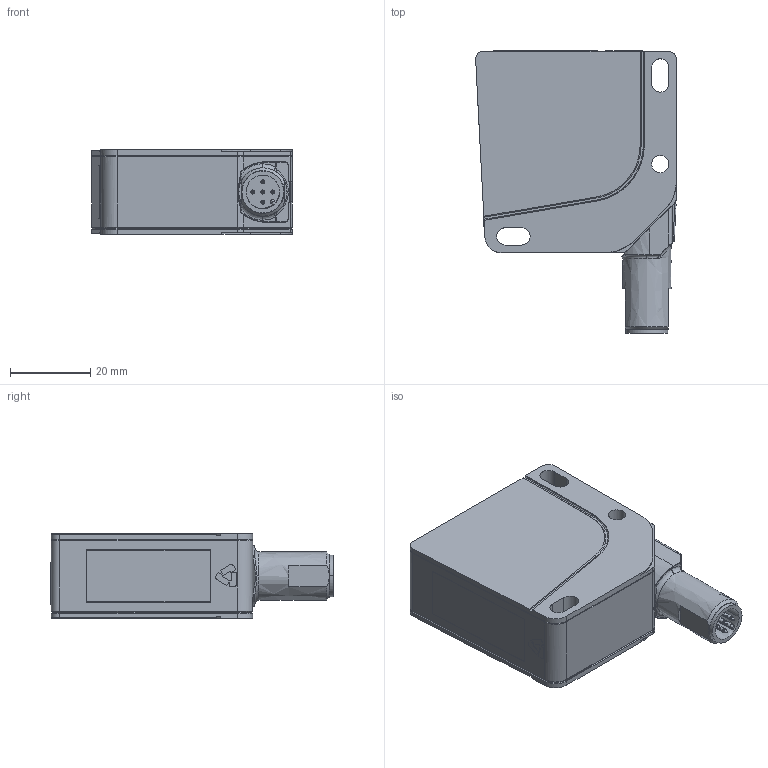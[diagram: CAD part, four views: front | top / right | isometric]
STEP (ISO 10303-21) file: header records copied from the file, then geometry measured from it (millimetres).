
FILE_DESCRIPTION((''),'2;1');
FILE_NAME('E:\temp\ODSL9_Stecker_unten.stp','2009-10-08T08:49:21',( 'User'),('SDRC'),'I-DEAS Master Series 9','UNIX','Yes');
FILE_SCHEMA(('CONFIG_CONTROL_DESIGN', 'GEOMETRIC_VALIDATION_PROPERTIES_MIM','SHAPE_APPEARANCE_LAYER_MIM'));
Length unit declared in the file: millimetre
Bounding box: 49.89 x 70.3 x 21 mm (x, y, z)
Volume: 49664.3 mm3; surface area: 11444.7 mm2
Topology: 1 solids, 1 shells, 412 faces, 1034 edges, 663 vertices
Faces by surface type: bspline 412
Entity records: 13803 total; most frequent: CARTESIAN_POINT 7103, ORIENTED_EDGE 2040, EDGE_CURVE 1020, VERTEX_POINT 638, OVER_RIDING_STYLED_ITEM 549, B_SPLINE_CURVE_WITH_KNOTS 488, EDGE_LOOP 446, FACE_OUTER_BOUND 412
